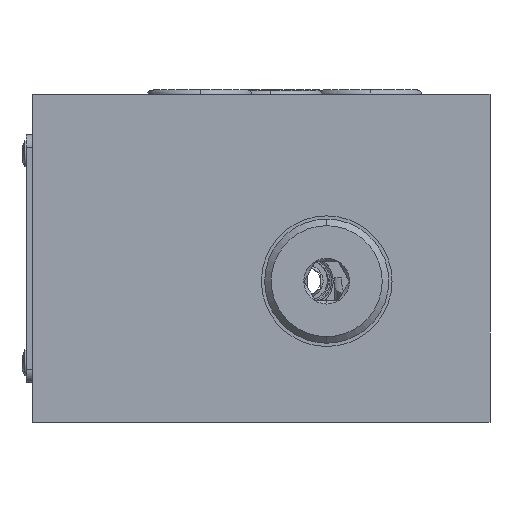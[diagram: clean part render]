
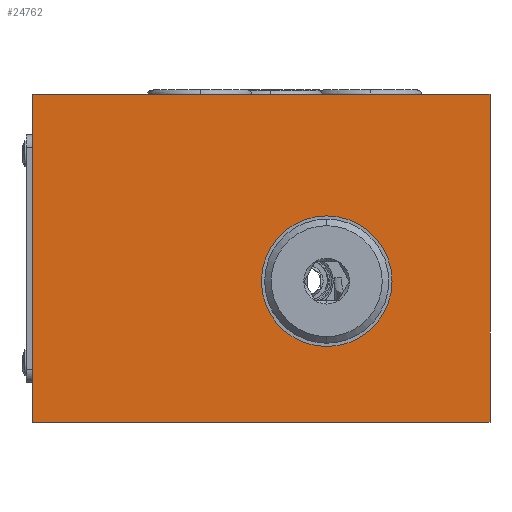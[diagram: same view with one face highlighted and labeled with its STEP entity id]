
A CAD part, left-side view. The second image highlights one B-rep face of the part: STEP entity #24762.
In plain terms, the highlighted planar face has unit normal (-1, 0, 0).
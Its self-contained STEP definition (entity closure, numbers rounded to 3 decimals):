
#505 = CARTESIAN_POINT ( 'NONE',  ( -42.5, -28., 28.6 ) ) ;
#5842 = VERTEX_POINT ( 'NONE', #505 ) ;
#6492 = CARTESIAN_POINT ( 'NONE',  ( -42.5, 42., -21.6 ) ) ;
#7180 = AXIS2_PLACEMENT_3D ( 'NONE', #48748, #35176, #53600 ) ;
#7508 = FACE_OUTER_BOUND ( 'NONE', #52923, .T. ) ;
#7838 = LINE ( 'NONE', #44934, #11331 ) ;
#8328 = DIRECTION ( 'NONE',  ( 0., -1., 0. ) ) ;
#10320 = EDGE_CURVE ( 'NONE', #36392, #18600, #43883, .T. ) ;
#11331 = VECTOR ( 'NONE', #39714, 1000. ) ;
#11477 = CARTESIAN_POINT ( 'NONE',  ( -42.5, 42., 28.6 ) ) ;
#12391 = VERTEX_POINT ( 'NONE', #55918 ) ;
#12806 = VERTEX_POINT ( 'NONE', #37406 ) ;
#14482 = EDGE_CURVE ( 'NONE', #18600, #5842, #7838, .T. ) ;
#15852 = DIRECTION ( 'NONE',  ( 0., -1., 0. ) ) ;
#16049 = ORIENTED_EDGE ( 'NONE', *, *, #10320, .T. ) ;
#16291 = CARTESIAN_POINT ( 'NONE',  ( -42.5, 42., -21.6 ) ) ;
#17381 = ORIENTED_EDGE ( 'NONE', *, *, #51092, .F. ) ;
#18058 = DIRECTION ( 'NONE',  ( -1., 0., 0. ) ) ;
#18550 = ORIENTED_EDGE ( 'NONE', *, *, #14482, .T. ) ;
#18600 = VERTEX_POINT ( 'NONE', #52431 ) ;
#24762 = ADVANCED_FACE ( 'NONE', ( #7508, #56671 ), #31914, .T. ) ;
#25053 = ORIENTED_EDGE ( 'NONE', *, *, #30716, .F. ) ;
#25433 = VECTOR ( 'NONE', #44439, 1000. ) ;
#25892 = EDGE_CURVE ( 'NONE', #12391, #12806, #47421, .T. ) ;
#26676 = CARTESIAN_POINT ( 'NONE',  ( -42.5, 42., 28.6 ) ) ;
#27256 = VECTOR ( 'NONE', #28284, 1000. ) ;
#27552 = ORIENTED_EDGE ( 'NONE', *, *, #25892, .F. ) ;
#27898 = CARTESIAN_POINT ( 'NONE',  ( -42.5, 42., -21.6 ) ) ;
#28284 = DIRECTION ( 'NONE',  ( 0., -1., 0. ) ) ;
#28748 = AXIS2_PLACEMENT_3D ( 'NONE', #35624, #18058, #39716 ) ;
#29043 = CIRCLE ( 'NONE', #7180, 10. ) ;
#30716 = EDGE_CURVE ( 'NONE', #12806, #12391, #29043, .T. ) ;
#31736 = VECTOR ( 'NONE', #8328, 1000. ) ;
#31914 = PLANE ( 'NONE',  #44295 ) ;
#32829 = DIRECTION ( 'NONE',  ( -1., 0., 0. ) ) ;
#35176 = DIRECTION ( 'NONE',  ( -1., 0., 0. ) ) ;
#35624 = CARTESIAN_POINT ( 'NONE',  ( -42.5, -3., 0. ) ) ;
#36392 = VERTEX_POINT ( 'NONE', #6492 ) ;
#36538 = CARTESIAN_POINT ( 'NONE',  ( -42.5, 42., -21.6 ) ) ;
#37406 = CARTESIAN_POINT ( 'NONE',  ( -42.5, -3., 10. ) ) ;
#37869 = LINE ( 'NONE', #16291, #25433 ) ;
#39714 = DIRECTION ( 'NONE',  ( 0., 0., 1. ) ) ;
#39716 = DIRECTION ( 'NONE',  ( 0., 0., 1. ) ) ;
#43734 = ORIENTED_EDGE ( 'NONE', *, *, #45893, .F. ) ;
#43883 = LINE ( 'NONE', #27898, #27256 ) ;
#44295 = AXIS2_PLACEMENT_3D ( 'NONE', #36538, #32829, #15852 ) ;
#44439 = DIRECTION ( 'NONE',  ( 0., 0., 1. ) ) ;
#44934 = CARTESIAN_POINT ( 'NONE',  ( -42.5, -28., -21.6 ) ) ;
#45893 = EDGE_CURVE ( 'NONE', #36392, #54637, #37869, .T. ) ;
#47421 = CIRCLE ( 'NONE', #28748, 10. ) ;
#48748 = CARTESIAN_POINT ( 'NONE',  ( -42.5, -3., 0. ) ) ;
#49084 = LINE ( 'NONE', #26676, #31736 ) ;
#50857 = EDGE_LOOP ( 'NONE', ( #25053, #27552 ) ) ;
#51092 = EDGE_CURVE ( 'NONE', #54637, #5842, #49084, .T. ) ;
#52431 = CARTESIAN_POINT ( 'NONE',  ( -42.5, -28., -21.6 ) ) ;
#52923 = EDGE_LOOP ( 'NONE', ( #18550, #17381, #43734, #16049 ) ) ;
#53600 = DIRECTION ( 'NONE',  ( 0., 0., 1. ) ) ;
#54637 = VERTEX_POINT ( 'NONE', #11477 ) ;
#55918 = CARTESIAN_POINT ( 'NONE',  ( -42.5, -3., -10. ) ) ;
#56671 = FACE_BOUND ( 'NONE', #50857, .T. ) ;
